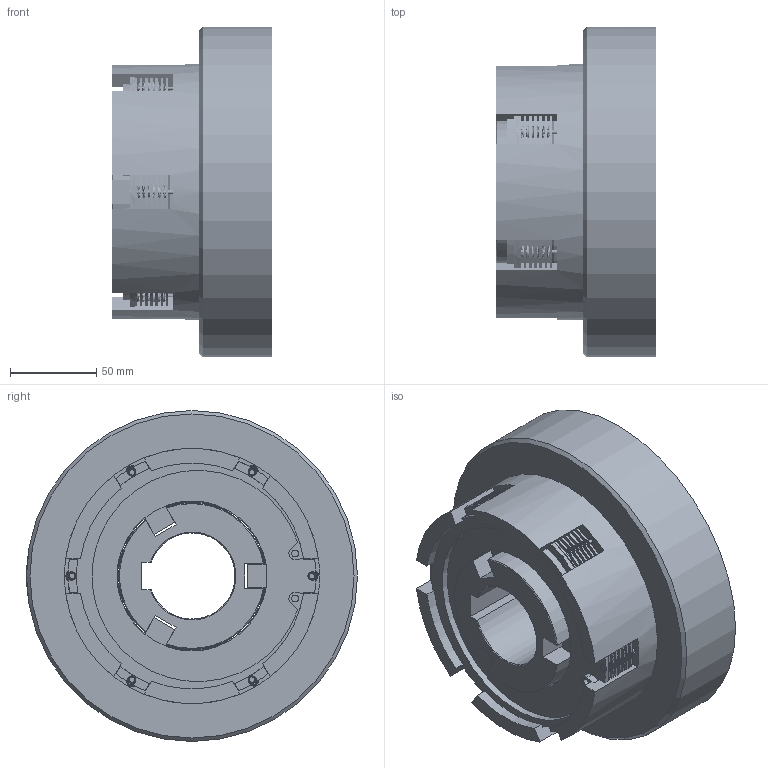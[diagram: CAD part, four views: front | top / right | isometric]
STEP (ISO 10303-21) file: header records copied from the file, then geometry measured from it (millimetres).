
FILE_DESCRIPTION(/* description */ (''),/* implementation_level */ '2;1');
FILE_NAME(/* name */ 'X:\INVENTOR\DISEGNI\03_Friz_Oleod_Pneum_Cil_Stat\03_40 FPL-N\03_40_006_01 FPL_N06\B\03_40_006_01 FPL-N006B@STEP.stp',/* time_stamp */ '2018-06-20T13:33:04+02:00',/* author */ ('stefano'),/* organization */ (''),/* preprocessor_version */ 'ST-DEVELOPER v17',/* originating_system */ 'Autodesk Inventor 2018',/* authorisation */ '');
FILE_SCHEMA (('AUTOMOTIVE_DESIGN { 1 0 10303 214 3 1 1 }'));
Products named in the file (1): 03_40_006_01 FPL-N006B_Substitute_1
Bounding box: 92.5 x 192 x 192 mm (x, y, z)
Volume: 1471789.1 mm3; surface area: 286350.6 mm2
Topology: 20 solids, 20 shells, 948 faces, 2565 edges, 1711 vertices
Faces by surface type: plane 443, cylinder 257, bspline 192, cone 50, torus 6
Full cylindrical faces by diameter (mm): 2 x6, 2.75 x48, 3.5 x6, 4 x2, 6.647 x8, 11.445 x1, 15.5 x12, 87 x9, 125 x2, 128.5 x6, 131 x1, 148 x1, 170 x2, 192 x1
Entity records: 61195 total; most frequent: CARTESIAN_POINT 36599, ORIENTED_EDGE 5100, DIRECTION 4940, EDGE_CURVE 2550, AXIS2_PLACEMENT_3D 1968, VERTEX_POINT 1711, CIRCLE 1205, EDGE_LOOP 1131
